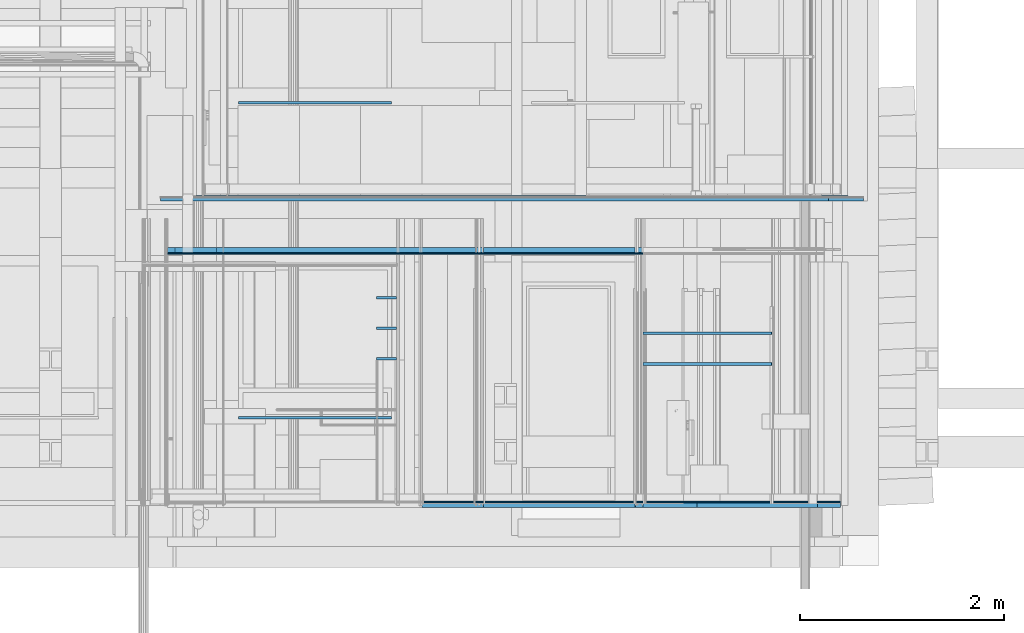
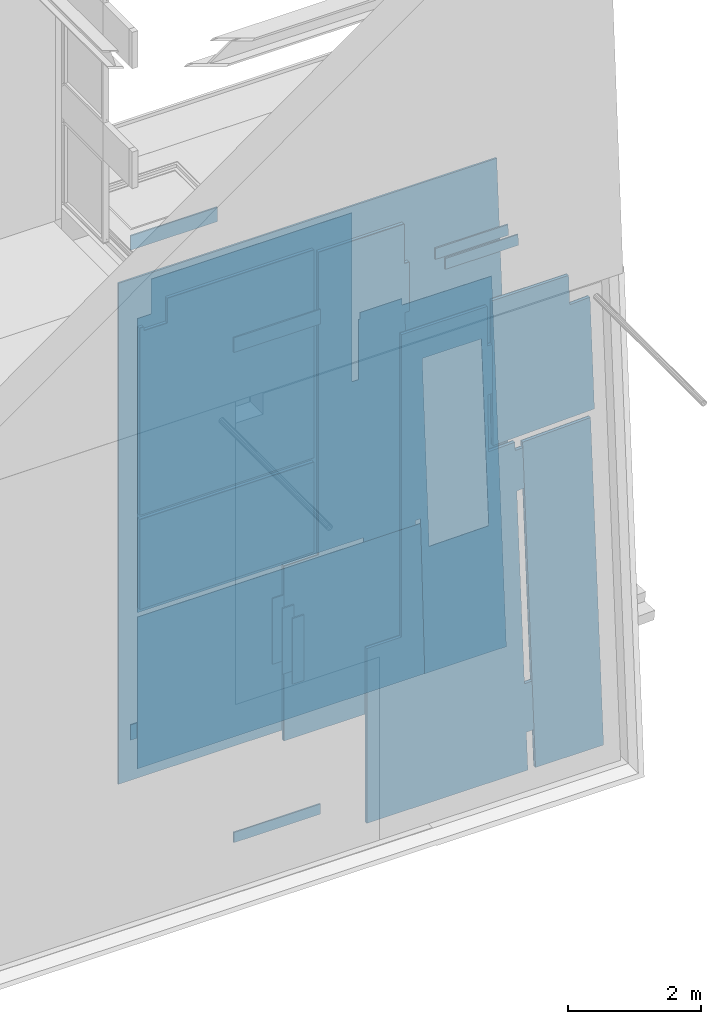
# One storey, part 259 of 583: 24 slabs.
"""IFC2X3 building model written with IfcOpenShell, lengths in metres."""

from ifc_helpers import new_model, entity, si_unit, converted_unit, derived_unit, money_unit, direction, frame, origin_with_axes, place, context, subcontext, project, spatial, faceted_brep, material, type_object, element, save


model = new_model("IFC2X3")

# Units and contexts
model_context = context("Model", 3, precision=1e-05, world=origin_with_axes(), true_north=direction((0.0, 1.0)))
body_context = subcontext(model_context, "Body", "Model", "MODEL_VIEW", scale=1.0)
ifc_project = project(units=[si_unit("LENGTHUNIT", "METRE"), si_unit("AREAUNIT", "SQUARE_METRE"), si_unit("VOLUMEUNIT", "CUBIC_METRE"), si_unit("ABSORBEDDOSEUNIT", "GRAY"), si_unit("AMOUNTOFSUBSTANCEUNIT", "MOLE"), si_unit("DOSEEQUIVALENTUNIT", "SIEVERT"), si_unit("ELECTRICCAPACITANCEUNIT", "FARAD"), si_unit("ELECTRICCHARGEUNIT", "COULOMB"), si_unit("ELECTRICCONDUCTANCEUNIT", "SIEMENS"), si_unit("ELECTRICCURRENTUNIT", "AMPERE"), si_unit("ELECTRICRESISTANCEUNIT", "OHM"), si_unit("ELECTRICVOLTAGEUNIT", "VOLT"), si_unit("ENERGYUNIT", "JOULE"), si_unit("FORCEUNIT", "NEWTON"), si_unit("FREQUENCYUNIT", "HERTZ"), si_unit("ILLUMINANCEUNIT", "LUX"), si_unit("INDUCTANCEUNIT", "HENRY"), si_unit("LUMINOUSFLUXUNIT", "LUMEN"), si_unit("LUMINOUSINTENSITYUNIT", "CANDELA"), si_unit("MAGNETICFLUXDENSITYUNIT", "TESLA"), si_unit("MAGNETICFLUXUNIT", "WEBER"), si_unit("MASSUNIT", "GRAM"), converted_unit("PLANEANGLEUNIT", "degree", entity("IfcReal", 0.0174532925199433), si_unit("PLANEANGLEUNIT", "RADIAN"), dimensions=[0, 0, 0, 0, 0, 0, 0]), si_unit("POWERUNIT", "WATT"), si_unit("PRESSUREUNIT", "PASCAL"), si_unit("RADIOACTIVITYUNIT", "BECQUEREL"), si_unit("SOLIDANGLEUNIT", "STERADIAN"), si_unit("THERMODYNAMICTEMPERATUREUNIT", "KELVIN"), si_unit("TIMEUNIT", "SECOND"), derived_unit("ACCELERATIONUNIT", [(si_unit("LENGTHUNIT", "METRE"), 1), (si_unit("TIMEUNIT", "SECOND"), -2)]), derived_unit("ANGULARVELOCITYUNIT", [(converted_unit("PLANEANGLEUNIT", "degree", entity("IfcReal", 0.0174532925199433), si_unit("PLANEANGLEUNIT", "RADIAN"), dimensions=[0, 0, 0, 0, 0, 0, 0]), 1), (si_unit("TIMEUNIT", "SECOND"), -1)]), derived_unit("CURVATUREUNIT", [(converted_unit("PLANEANGLEUNIT", "degree", entity("IfcReal", 0.0174532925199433), si_unit("PLANEANGLEUNIT", "RADIAN"), dimensions=[0, 0, 0, 0, 0, 0, 0]), 1), (si_unit("LENGTHUNIT", "METRE"), -1)]), derived_unit("DYNAMICVISCOSITYUNIT", [(si_unit("PRESSUREUNIT", "PASCAL"), 1), (si_unit("TIMEUNIT", "SECOND"), 1)]), derived_unit("HEATFLUXDENSITYUNIT", [(si_unit("POWERUNIT", "WATT"), 1), (si_unit("LENGTHUNIT", "METRE"), -2)]), derived_unit("HEATINGVALUEUNIT", [(si_unit("ENERGYUNIT", "JOULE"), 1), (si_unit("MASSUNIT", "GRAM"), -1)]), derived_unit("INTEGERCOUNTRATEUNIT", [(si_unit("TIMEUNIT", "SECOND"), -1)]), derived_unit("IONCONCENTRATIONUNIT", [(si_unit("MASSUNIT", "GRAM"), 1), (si_unit("VOLUMEUNIT", "CUBIC_METRE"), -1)]), derived_unit("ISOTHERMALMOISTURECAPACITYUNIT", [(si_unit("VOLUMEUNIT", "CUBIC_METRE"), 1), (si_unit("MASSUNIT", "GRAM"), -1)]), derived_unit("KINEMATICVISCOSITYUNIT", [(si_unit("AREAUNIT", "SQUARE_METRE"), 1), (si_unit("TIMEUNIT", "SECOND"), -1)]), derived_unit("LINEARFORCEUNIT", [(si_unit("FORCEUNIT", "NEWTON"), 1), (si_unit("LENGTHUNIT", "METRE"), -1)]), derived_unit("LINEARMOMENTUNIT", [(si_unit("FORCEUNIT", "NEWTON"), 1), (si_unit("LENGTHUNIT", "METRE"), -1)]), derived_unit("LINEARSTIFFNESSUNIT", [(si_unit("FORCEUNIT", "NEWTON"), 1), (si_unit("LENGTHUNIT", "METRE"), -1)]), derived_unit("LINEARVELOCITYUNIT", [(si_unit("LENGTHUNIT", "METRE"), 1), (si_unit("TIMEUNIT", "SECOND"), -1)]), derived_unit("LUMINOUSINTENSITYDISTRIBUTIONUNIT", [(si_unit("LUMINOUSINTENSITYUNIT", "CANDELA"), 1), (si_unit("LUMINOUSFLUXUNIT", "LUMEN"), -1)]), derived_unit("MASSDENSITYUNIT", [(si_unit("MASSUNIT", "GRAM"), 1), (si_unit("VOLUMEUNIT", "CUBIC_METRE"), -1)]), derived_unit("MASSFLOWRATEUNIT", [(si_unit("MASSUNIT", "GRAM"), 1), (si_unit("TIMEUNIT", "SECOND"), -1)]), derived_unit("MASSPERLENGTHUNIT", [(si_unit("MASSUNIT", "GRAM"), 1), (si_unit("LENGTHUNIT", "METRE"), -1)]), derived_unit("MODULUSOFELASTICITYUNIT", [(si_unit("FORCEUNIT", "NEWTON"), 1), (si_unit("AREAUNIT", "SQUARE_METRE"), -1)]), derived_unit("MODULUSOFLINEARSUBGRADEREACTIONUNIT", [(si_unit("FORCEUNIT", "NEWTON"), 1), (si_unit("LENGTHUNIT", "METRE"), -2)]), derived_unit("MODULUSOFROTATIONALSUBGRADEREACTIONUNIT", [(si_unit("FORCEUNIT", "NEWTON"), 1), (si_unit("LENGTHUNIT", "METRE"), 1)]), derived_unit("MODULUSOFSUBGRADEREACTIONUNIT", [(si_unit("FORCEUNIT", "NEWTON"), 1), (si_unit("VOLUMEUNIT", "CUBIC_METRE"), -1)]), derived_unit("MOISTUREDIFFUSIVITYUNIT", [(si_unit("VOLUMEUNIT", "CUBIC_METRE"), 1), (si_unit("TIMEUNIT", "SECOND"), -1)]), derived_unit("MOLECULARWEIGHTUNIT", [(si_unit("MASSUNIT", "GRAM"), 1), (si_unit("AMOUNTOFSUBSTANCEUNIT", "MOLE"), -1)]), derived_unit("PLANARFORCEUNIT", [(si_unit("FORCEUNIT", "NEWTON"), 1), (si_unit("LENGTHUNIT", "METRE"), -2)]), derived_unit("ROTATIONALFREQUENCYUNIT", [(si_unit("TIMEUNIT", "SECOND"), -1)]), derived_unit("ROTATIONALMASSUNIT", [(si_unit("MASSUNIT", "GRAM"), 1), (si_unit("LENGTHUNIT", "METRE"), 2)]), derived_unit("ROTATIONALSTIFFNESSUNIT", [(si_unit("FORCEUNIT", "NEWTON"), 1), (si_unit("LENGTHUNIT", "METRE"), 1), (converted_unit("PLANEANGLEUNIT", "degree", entity("IfcReal", 0.0174532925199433), si_unit("PLANEANGLEUNIT", "RADIAN"), dimensions=[0, 0, 0, 0, 0, 0, 0]), -1)]), derived_unit("SECTIONAREAINTEGRALUNIT", [(si_unit("LENGTHUNIT", "METRE"), 5)]), derived_unit("SECTIONMODULUSUNIT", [(si_unit("LENGTHUNIT", "METRE"), 3)]), derived_unit("SHEARMODULUSUNIT", [(si_unit("FORCEUNIT", "NEWTON"), 1), (si_unit("AREAUNIT", "SQUARE_METRE"), -1)]), derived_unit("SOUNDPOWERUNIT", [(si_unit("ENERGYUNIT", "JOULE"), 1), (si_unit("TIMEUNIT", "SECOND"), -1)]), derived_unit("SPECIFICHEATCAPACITYUNIT", [(si_unit("FORCEUNIT", "NEWTON"), 1), (si_unit("MASSUNIT", "GRAM"), -1), (si_unit("THERMODYNAMICTEMPERATUREUNIT", "KELVIN"), -1)]), derived_unit("TEMPERATUREGRADIENTUNIT", [(si_unit("THERMODYNAMICTEMPERATUREUNIT", "KELVIN"), 1), (si_unit("LENGTHUNIT", "METRE"), -1)]), derived_unit("THERMALADMITTANCEUNIT", [(si_unit("POWERUNIT", "WATT"), 1), (si_unit("AREAUNIT", "SQUARE_METRE"), -1), (si_unit("THERMODYNAMICTEMPERATUREUNIT", "KELVIN"), -1)]), derived_unit("THERMALCONDUCTANCEUNIT", [(si_unit("POWERUNIT", "WATT"), 1), (si_unit("LENGTHUNIT", "METRE"), -1), (si_unit("THERMODYNAMICTEMPERATUREUNIT", "KELVIN"), -1)]), derived_unit("THERMALEXPANSIONCOEFFICIENTUNIT", [(si_unit("THERMODYNAMICTEMPERATUREUNIT", "KELVIN"), -1)]), derived_unit("THERMALRESISTANCEUNIT", [(si_unit("AREAUNIT", "SQUARE_METRE"), 1), (si_unit("POWERUNIT", "WATT"), -1)]), derived_unit("THERMALTRANSMITTANCEUNIT", [(si_unit("POWERUNIT", "WATT"), 1), (si_unit("AREAUNIT", "SQUARE_METRE"), -1), (si_unit("THERMODYNAMICTEMPERATUREUNIT", "KELVIN"), -1)]), derived_unit("TORQUEUNIT", [(si_unit("FORCEUNIT", "NEWTON"), 1), (si_unit("LENGTHUNIT", "METRE"), 1)]), derived_unit("VAPORPERMEABILITYUNIT", [(si_unit("MASSUNIT", "GRAM"), 1), (si_unit("TIMEUNIT", "SECOND"), -1)]), derived_unit("VOLUMETRICFLOWRATEUNIT", [(si_unit("VOLUMEUNIT", "CUBIC_METRE"), 1), (si_unit("TIMEUNIT", "SECOND"), -1)]), derived_unit("WARPINGCONSTANTUNIT", [(si_unit("LENGTHUNIT", "METRE"), 6)]), derived_unit("WARPINGMOMENTUNIT", [(si_unit("FORCEUNIT", "NEWTON"), 1), (si_unit("LENGTHUNIT", "METRE"), 2)]), money_unit("GBP")], contexts=[model_context])

# Site, building, storey
site_placement = place(None, origin_with_axes())
site = spatial("IfcSite", under=ifc_project, at=site_placement, Name="Site", CompositionType="ELEMENT")
building_placement = place(site_placement, origin_with_axes())
building = spatial("IfcBuilding", under=site, at=building_placement, Name="Building01", CompositionType="ELEMENT")
storey_placement = place(building_placement, frame((0.0, 0.0, 20.78), z_axis=(0.0, 0.0, 1.0), x_axis=(1.0, 0.0, 0.0)))
storey = spatial("IfcBuildingStorey", under=building, at=storey_placement, Name="RL", CompositionType="ELEMENT", Elevation=20.78)

# Slabs
ifc_material_1 = material(Name="A_BSUK_Ceramic_WallTiles")
slab_type_1 = type_object("IfcSlabType", Name="A-FloorsSlabs A_BSUK_Slabs", PredefinedType="FLOOR")
placement = place(storey_placement, frame((0.0, 0.0, -20.78), z_axis=(0.0, 0.0, 1.0), x_axis=(1.0, 0.0, 0.0)))
element("IfcSlab", 1, at=placement, inside=storey, type_object=slab_type_1, material=ifc_material_1, Name="A-FloorsSlabs A_BSUK_Slabs", ObjectType="CompoundSlabLeaf", context=body_context, shape_type="Brep", body=[
    faceted_brep([(16.693646, 1.873, 2.180525), (16.693646, 1.898, 2.180525), (16.893647, 1.898, 2.180525), (16.893647, 1.873, 2.180525), (16.69365, 1.873, 3.380525), (16.69365, 1.898, 3.380525), (16.893646, 1.873, 3.380525), (16.893646, 1.898, 3.380525)], [[[0, 1, 2, 3]], [[4, 5, 1, 0]], [[6, 7, 5, 4]], [[3, 2, 7, 6]], [[1, 5, 7, 2]], [[3, 6, 4, 0]]]),
])
element("IfcSlab", 2, at=placement, inside=storey, type_object=slab_type_1, material=ifc_material_1, Name="A-FloorsSlabs A_BSUK_Slabs", ObjectType="CompoundSlabLeaf", context=body_context, shape_type="Brep", body=[
    faceted_brep([(16.693646, 2.173, 2.180525), (16.693646, 2.198, 2.180525), (16.893647, 2.198, 2.180525), (16.893647, 2.173, 2.180525), (16.69365, 2.173, 3.380525), (16.69365, 2.198, 3.380525), (16.893646, 2.173, 3.380525), (16.893646, 2.198, 3.380525)], [[[0, 1, 2, 3]], [[4, 5, 1, 0]], [[6, 7, 5, 4]], [[3, 2, 7, 6]], [[1, 5, 7, 2]], [[3, 6, 4, 0]]]),
])
ifc_material_2 = material(Name="A_BSUK_Ceramic_FloorTiles")
element("IfcSlab", 3, at=placement, inside=storey, type_object=slab_type_1, material=ifc_material_2, Name="A-FloorsSlabs A_BSUK_Slabs", ObjectType="CompoundSlabLeaf", context=body_context, shape_type="Brep", body=[
    faceted_brep([(21.082305, 0.178, 6.556698), (21.082305, 0.19, 6.556698), (21.00546, 0.19, 8.628099), (21.00546, 0.178, 8.628099), (19.325402, 0.178, 6.497539), (19.325402, 0.19, 6.497539), (19.307574, 0.178, 9.154265), (19.307574, 0.19, 9.154265), (20.635466, 0.178, 9.154265), (20.635466, 0.19, 9.154265), (20.65458, 0.178, 8.611883), (20.65458, 0.19, 8.611883)], [[[0, 1, 2, 3]], [[4, 5, 1, 0]], [[6, 7, 5, 4]], [[8, 9, 7, 6]], [[10, 11, 9, 8]], [[3, 2, 11, 10]], [[1, 5, 7, 9, 11, 2]], [[3, 10, 8, 6, 4, 0]]]),
])
element("IfcSlab", 4, at=placement, inside=storey, type_object=slab_type_1, material=ifc_material_1, Name="A-FloorsSlabs A_BSUK_Slabs", ObjectType="CompoundSlabLeaf", context=body_context, shape_type="Brep", body=[
    faceted_brep([(20.573007, 1.823, 8.882265), (20.573007, 1.848, 8.882265), (20.565959, 1.848, 9.082265), (20.565959, 1.823, 9.082265), (19.308916, 1.823, 8.882265), (19.308916, 1.848, 8.882265), (19.307574, 1.823, 9.082265), (19.307574, 1.848, 9.082265)], [[[0, 1, 2, 3]], [[4, 5, 1, 0]], [[6, 7, 5, 4]], [[3, 2, 7, 6]], [[1, 5, 7, 2]], [[3, 6, 4, 0]]]),
])
ifc_material_3 = material(Name="A_BSUK_Timber_Miscellaneous")
element("IfcSlab", 5, at=placement, inside=storey, type_object=slab_type_1, material=ifc_material_3, Name="A-FloorsSlabs A_BSUK_Slabs", ObjectType="CompoundSlabLeaf", context=body_context, shape_type="Brep", body=[
    faceted_brep([(16.844813, 0.998, 9.067265), (16.844813, 1.023, 9.067265), (16.844813, 1.023, 9.334256), (16.844813, 0.998, 9.334256), (15.344813, 0.998, 9.067265), (15.344813, 1.023, 9.067265), (15.344813, 0.998, 9.334256), (15.344813, 1.023, 9.334256)], [[[0, 1, 2, 3]], [[4, 5, 1, 0]], [[6, 7, 5, 4]], [[3, 2, 7, 6]], [[1, 5, 7, 2]], [[3, 6, 4, 0]]]),
])
ifc_material_4 = material(Name="A_BSUK_Parquet_Floor")
element("IfcSlab", 6, at=placement, inside=storey, type_object=slab_type_1, material=ifc_material_4, Name="A-FloorsSlabs A_BSUK_Slabs", ObjectType="CompoundSlabLeaf", context=body_context, shape_type="Brep", body=[
    faceted_brep([(21.240404, 0.178, 0.352897), (21.240404, 0.19, 0.352897), (21.015221, 0.19, 6.422857), (21.015221, 0.178, 6.422857), (20.061719, 0.178, 0.352897), (20.061719, 0.19, 0.352897), (19.838621, 0.178, 6.383485), (19.838621, 0.19, 6.383485)], [[[0, 1, 2, 3]], [[4, 5, 1, 0]], [[6, 7, 5, 4]], [[3, 2, 7, 6]], [[1, 5, 7, 2]], [[3, 6, 4, 0]]]),
])
element("IfcSlab", 7, at=placement, inside=storey, type_object=slab_type_1, material=ifc_material_4, Name="A-FloorsSlabs A_BSUK_Slabs", ObjectType="CompoundSlabLeaf", context=body_context, shape_type="Brep", body=[
    faceted_brep([(19.930631, 0.178, 0.35286), (19.930631, 0.19, 0.35286), (19.904707, 0.19, 1.053595), (19.904707, 0.178, 1.053595), (17.143647, 0.178, 0.35286), (17.143647, 0.19, 0.35286), (17.143647, 0.178, 3.550525), (17.143647, 0.19, 3.550525), (17.743571, 0.178, 3.550525), (17.743571, 0.19, 3.550525), (17.743571, 0.178, 9.082265), (17.743571, 0.19, 9.082265), (19.227572, 0.178, 9.082265), (19.227572, 0.19, 9.082265), (19.232925, 0.178, 8.356522), (19.232925, 0.19, 8.356522), (19.312922, 0.178, 8.357258), (19.312922, 0.19, 8.357258), (19.318961, 0.178, 7.457276), (19.318961, 0.19, 7.457276), (19.241312, 0.178, 7.456561), (19.241312, 0.19, 7.456561), (19.245955, 0.178, 6.414819), (19.245955, 0.19, 6.414819), (19.7058, 0.178, 6.430303), (19.7058, 0.19, 6.430303), (19.71153, 0.178, 6.275395), (19.71153, 0.19, 6.275395), (19.842441, 0.178, 6.280238), (19.842441, 0.19, 6.280238), (19.870167, 0.178, 5.530751), (19.870167, 0.19, 5.530751), (19.739257, 0.178, 5.525908), (19.739257, 0.19, 5.525908), (19.871435, 0.178, 1.952979), (19.871435, 0.19, 1.952979), (20.002346, 0.178, 1.957822), (20.002346, 0.19, 1.957822), (20.035618, 0.178, 1.058438), (20.035618, 0.19, 1.058438)], [[[0, 1, 2, 3]], [[4, 5, 1, 0]], [[6, 7, 5, 4]], [[8, 9, 7, 6]], [[10, 11, 9, 8]], [[12, 13, 11, 10]], [[14, 15, 13, 12]], [[16, 17, 15, 14]], [[18, 19, 17, 16]], [[20, 21, 19, 18]], [[22, 23, 21, 20]], [[24, 25, 23, 22]], [[26, 27, 25, 24]], [[28, 29, 27, 26]], [[30, 31, 29, 28]], [[32, 33, 31, 30]], [[34, 35, 33, 32]], [[36, 37, 35, 34]], [[38, 39, 37, 36]], [[3, 2, 39, 38]], [[1, 5, 7, 9, 11, 13, 15, 17, 19, 21, 23, 25, 27, 29, 31, 33, 35, 37, 39, 2]], [[3, 38, 36, 34, 32, 30, 28, 26, 24, 22, 20, 18, 16, 14, 12, 10, 8, 6, 4, 0]]]),
])
ifc_material_5 = material(Name="A_BSUK_CeilingSoffitFinishes_Suspended")
element("IfcSlab", 8, at=placement, inside=storey, type_object=slab_type_1, material=ifc_material_5, Name="A-FloorsSlabs A_BSUK_Slabs", ObjectType="CompoundSlabLeaf", context=body_context, shape_type="Brep", body=[
    faceted_brep([(14.65, 2.6125, 5.354256), (14.65, 2.625, 5.354256), (17.663571, 2.625, 5.354256), (17.663571, 2.6125, 5.354256), (14.65, 2.6125, 8.775265), (14.65, 2.625, 8.775265), (14.721892, 2.6125, 8.775265), (14.721892, 2.625, 8.775265), (14.721892, 2.6125, 8.705291), (14.721892, 2.625, 8.705291), (15.127892, 2.6125, 8.705291), (15.127892, 2.625, 8.705291), (15.127892, 2.6125, 9.154265), (15.127892, 2.625, 9.154265), (17.663571, 2.6125, 9.154265), (17.663571, 2.625, 9.154265)], [[[0, 1, 2, 3]], [[4, 5, 1, 0]], [[6, 7, 5, 4]], [[8, 9, 7, 6]], [[10, 11, 9, 8]], [[12, 13, 11, 10]], [[14, 15, 13, 12]], [[3, 2, 15, 14]], [[1, 5, 7, 9, 11, 13, 15, 2]], [[3, 14, 12, 10, 8, 6, 4, 0]]]),
])
element("IfcSlab", 9, at=placement, inside=storey, type_object=slab_type_1, material=ifc_material_5, Name="A-FloorsSlabs A_BSUK_Slabs", ObjectType="CompoundSlabLeaf", context=body_context, shape_type="Brep", body=[
    faceted_brep([(17.663571, 2.6125, 3.630525), (17.663571, 2.625, 3.630525), (17.663571, 2.625, 5.274256), (17.663571, 2.6125, 5.274256), (14.65, 2.6125, 3.630525), (14.65, 2.625, 3.630525), (14.65, 2.6125, 5.274256), (14.65, 2.625, 5.274256)], [[[0, 1, 2, 3]], [[4, 5, 1, 0]], [[6, 7, 5, 4]], [[3, 2, 7, 6]], [[1, 5, 7, 2]], [[3, 6, 4, 0]]]),
])
element("IfcSlab", 10, at=placement, inside=storey, type_object=slab_type_1, material=ifc_material_5, Name="A-FloorsSlabs A_BSUK_Slabs", ObjectType="CompoundSlabLeaf", context=body_context, shape_type="Brep", body=[
    faceted_brep([(19.930631, 2.6125, 0.35286), (19.930631, 2.625, 0.35286), (19.904707, 2.625, 1.053595), (19.904707, 2.6125, 1.053595), (17.143647, 2.6125, 0.35286), (17.143647, 2.625, 0.35286), (17.143647, 2.6125, 3.550525), (17.143647, 2.625, 3.550525), (17.743571, 2.6125, 3.550525), (17.743571, 2.625, 3.550525), (17.743571, 2.6125, 9.082265), (17.743571, 2.625, 9.082265), (19.227572, 2.6125, 9.082265), (19.227572, 2.625, 9.082265), (19.232925, 2.6125, 8.356522), (19.232925, 2.625, 8.356522), (19.312922, 2.6125, 8.357258), (19.312922, 2.625, 8.357258), (19.318961, 2.6125, 7.457276), (19.318961, 2.625, 7.457276), (19.241312, 2.6125, 7.456561), (19.241312, 2.625, 7.456561), (19.245955, 2.6125, 6.414819), (19.245955, 2.625, 6.414819), (19.7058, 2.6125, 6.430303), (19.7058, 2.625, 6.430303), (19.71153, 2.6125, 6.275395), (19.71153, 2.625, 6.275395), (19.842441, 2.6125, 6.280238), (19.842441, 2.625, 6.280238), (19.870167, 2.6125, 5.530751), (19.870167, 2.625, 5.530751), (19.739257, 2.6125, 5.525908), (19.739257, 2.625, 5.525908), (19.871435, 2.6125, 1.952979), (19.871435, 2.625, 1.952979), (20.002346, 2.6125, 1.957822), (20.002346, 2.625, 1.957822), (20.035618, 2.6125, 1.058438), (20.035618, 2.625, 1.058438)], [[[0, 1, 2, 3]], [[4, 5, 1, 0]], [[6, 7, 5, 4]], [[8, 9, 7, 6]], [[10, 11, 9, 8]], [[12, 13, 11, 10]], [[14, 15, 13, 12]], [[16, 17, 15, 14]], [[18, 19, 17, 16]], [[20, 21, 19, 18]], [[22, 23, 21, 20]], [[24, 25, 23, 22]], [[26, 27, 25, 24]], [[28, 29, 27, 26]], [[30, 31, 29, 28]], [[32, 33, 31, 30]], [[34, 35, 33, 32]], [[36, 37, 35, 34]], [[38, 39, 37, 36]], [[3, 2, 39, 38]], [[1, 5, 7, 9, 11, 13, 15, 17, 19, 21, 23, 25, 27, 29, 31, 33, 35, 37, 39, 2]], [[3, 38, 36, 34, 32, 30, 28, 26, 24, 22, 20, 18, 16, 14, 12, 10, 8, 6, 4, 0]]]),
])
element("IfcSlab", 11, at=placement, inside=storey, type_object=slab_type_1, material=ifc_material_3, Name="A-FloorsSlabs A_BSUK_Slabs", ObjectType="CompoundSlabLeaf", context=body_context, shape_type="Brep", body=[
    faceted_brep([(16.844813, 0.998, 0.100088), (16.844813, 1.023, 0.100088), (16.844813, 1.023, 0.287079), (16.844813, 0.998, 0.287079), (15.344813, 0.998, 0.100088), (15.344813, 1.023, 0.100088), (15.344813, 0.998, 0.287079), (15.344813, 1.023, 0.287079)], [[[0, 1, 2, 3]], [[4, 5, 1, 0]], [[6, 7, 5, 4]], [[3, 2, 7, 6]], [[1, 5, 7, 2]], [[3, 6, 4, 0]]]),
])
ifc_material_6 = material(Name="A_BSUK_InternalFinishes_FloorScreed")
element("IfcSlab", 12, at=placement, inside=storey, type_object=slab_type_1, material=ifc_material_6, Name="A-FloorsSlabs A_BSUK_Slabs", ObjectType="CompoundSlabLeaf", context=body_context, shape_type="Brep", body=[
    faceted_brep([(14.580001, 3.167, 9.303038), (21.127455, 3.167, 9.303038), (21.46733, 3.167, 0.140679), (21.436217, 3.167, 0.140679), (14.580006, 3.167, 0.140679), (14.580006, 3.167, 0.668282), (14.580016, 3.167, 0.668282), (19.979174, 3.167, 2.584185), (21.008386, 3.167, 2.600185), (20.880804, 3.167, 6.062509), (19.859391, 3.167, 6.06243), (14.580016, 3.135, 0.668282), (14.580006, 3.135, 0.668282), (14.580006, 3.135, 0.140679), (21.436217, 3.135, 0.140679), (21.46733, 3.135, 0.140679), (21.127455, 3.135, 9.303038), (14.580001, 3.135, 9.303038), (19.979174, 3.135, 2.584185), (19.859391, 3.135, 6.06243), (20.880804, 3.135, 6.062509), (21.008386, 3.135, 2.600185)], [[[0, 1, 2, 3, 4, 5, 6], [7, 8, 9, 10]], [[11, 12, 13, 14, 15, 16, 17], [18, 19, 20, 21]], [[17, 0, 6, 11]], [[16, 1, 0, 17]], [[15, 2, 1, 16]], [[14, 3, 2, 15]], [[13, 4, 3, 14]], [[12, 5, 4, 13]], [[11, 6, 5, 12]], [[18, 21, 8, 7]], [[19, 18, 7, 10]], [[20, 19, 10, 9]], [[21, 20, 9, 8]]]),
])
element("IfcSlab", 13, at=placement, inside=storey, type_object=slab_type_1, material=ifc_material_4, Name="A-FloorsSlabs A_BSUK_Slabs", ObjectType="CompoundSlabLeaf", context=body_context, shape_type="Brep", body=[
    faceted_brep([(14.93, 3.182, 8.516893), (15.168, 3.182, 8.516893), (15.168, 3.182, 9.154265), (18.639607, 3.182, 9.154265), (18.639607, 3.182, 6.06243), (18.752607, 3.182, 6.06243), (18.752607, 3.182, 7.159608), (18.78011, 3.182, 7.159608), (18.78011, 3.182, 7.279608), (19.51011, 3.182, 7.279608), (19.51011, 3.182, 7.160903), (21.06028, 3.182, 7.150398), (21.315124, 3.182, 0.280897), (19.90157, 3.182, 0.280897), (19.828341, 3.182, 3.137414), (19.740347, 3.182, 3.137414), (19.740347, 3.182, 3.057414), (18.840347, 3.182, 3.057414), (18.840347, 3.182, 3.137414), (14.93, 3.182, 3.137414), (14.93, 3.182, 4.398835), (14.93001, 3.182, 4.398835), (19.979174, 3.182, 2.584185), (21.008386, 3.182, 2.600185), (20.880804, 3.182, 6.062509), (19.859391, 3.182, 6.06243), (14.93001, 3.17, 4.398835), (14.93, 3.17, 4.398835), (14.93, 3.17, 3.137414), (18.840347, 3.17, 3.137414), (18.840347, 3.17, 3.057414), (19.740347, 3.17, 3.057414), (19.740347, 3.17, 3.137414), (19.828341, 3.17, 3.137414), (19.90157, 3.17, 0.280897), (21.315124, 3.17, 0.280897), (21.06028, 3.17, 7.150398), (19.51011, 3.17, 7.160903), (19.51011, 3.17, 7.279608), (18.78011, 3.17, 7.279608), (18.78011, 3.17, 7.159608), (18.752607, 3.17, 7.159608), (18.752607, 3.17, 6.06243), (18.639607, 3.17, 6.06243), (18.639607, 3.17, 9.154265), (15.168, 3.17, 9.154265), (15.168, 3.17, 8.516893), (14.93, 3.17, 8.516893), (19.979174, 3.17, 2.584185), (19.859391, 3.17, 6.06243), (20.880804, 3.17, 6.062509), (21.008386, 3.17, 2.600185)], [[[0, 1, 2, 3, 4, 5, 6, 7, 8, 9, 10, 11, 12, 13, 14, 15, 16, 17, 18, 19, 20, 21], [22, 23, 24, 25]], [[26, 27, 28, 29, 30, 31, 32, 33, 34, 35, 36, 37, 38, 39, 40, 41, 42, 43, 44, 45, 46, 47], [48, 49, 50, 51]], [[47, 0, 21, 26]], [[46, 1, 0, 47]], [[45, 2, 1, 46]], [[44, 3, 2, 45]], [[43, 4, 3, 44]], [[42, 5, 4, 43]], [[41, 6, 5, 42]], [[40, 7, 6, 41]], [[39, 8, 7, 40]], [[38, 9, 8, 39]], [[37, 10, 9, 38]], [[36, 11, 10, 37]], [[35, 12, 11, 36]], [[34, 13, 12, 35]], [[33, 14, 13, 34]], [[32, 15, 14, 33]], [[31, 16, 15, 32]], [[30, 17, 16, 31]], [[29, 18, 17, 30]], [[28, 19, 18, 29]], [[27, 20, 19, 28]], [[26, 21, 20, 27]], [[48, 51, 23, 22]], [[49, 48, 22, 25]], [[50, 49, 25, 24]], [[51, 50, 24, 23]]]),
])
ifc_material_7 = material(Name="A_BSUK_Carpet-Pile")
element("IfcSlab", 14, at=placement, inside=storey, type_object=slab_type_1, material=ifc_material_7, Name="A-FloorsSlabs A_BSUK_Slabs", ObjectType="CompoundSlabLeaf", context=body_context, shape_type="Brep", body=[
    faceted_brep([(19.90157, 3.17, 0.280897), (19.90157, 3.182, 0.280897), (19.830392, 3.182, 3.057414), (19.830392, 3.17, 3.057414), (14.93, 3.17, 0.280777), (14.93, 3.182, 0.280777), (14.93, 3.17, 3.057414), (14.93, 3.182, 3.057414)], [[[0, 1, 2, 3]], [[4, 5, 1, 0]], [[6, 7, 5, 4]], [[3, 2, 7, 6]], [[1, 5, 7, 2]], [[3, 6, 4, 0]]]),
])
element("IfcSlab", 15, at=placement, inside=storey, type_object=slab_type_1, material=ifc_material_3, Name="A-FloorsSlabs A_BSUK_Slabs", ObjectType="CompoundSlabLeaf", context=body_context, shape_type="Brep", body=[
    faceted_brep([(16.84279, 4.085, 9.067259), (16.84279, 4.11, 9.067259), (16.84279, 4.11, 9.329665), (16.84279, 4.085, 9.329665), (15.34279, 4.085, 9.067259), (15.34279, 4.11, 9.067259), (15.34279, 4.085, 9.329665), (15.34279, 4.11, 9.329665)], [[[0, 1, 2, 3]], [[4, 5, 1, 0]], [[6, 7, 5, 4]], [[3, 2, 7, 6]], [[1, 5, 7, 2]], [[3, 6, 4, 0]]]),
])
element("IfcSlab", 16, at=placement, inside=storey, type_object=slab_type_1, material=ifc_material_3, Name="A-FloorsSlabs A_BSUK_Slabs", ObjectType="CompoundSlabLeaf", context=body_context, shape_type="Brep", body=[
    faceted_brep([(16.84279, 4.085, 0.103554), (16.84279, 4.11, 0.103554), (16.84279, 4.11, 0.383679), (16.84279, 4.085, 0.383679), (15.34279, 4.085, 0.103554), (15.34279, 4.11, 0.103554), (15.34279, 4.085, 0.383679), (15.34279, 4.11, 0.383679)], [[[0, 1, 2, 3]], [[4, 5, 1, 0]], [[6, 7, 5, 4]], [[3, 2, 7, 6]], [[1, 5, 7, 2]], [[3, 6, 4, 0]]]),
])
slab_type_2 = type_object("IfcSlabType", Name="A-Finishes A_BSUK_Ceramic_FloorTiles", PredefinedType="FLOOR")
element("IfcSlab", 17, at=placement, inside=storey, type_object=slab_type_2, material=ifc_material_2, Name="A-Finishes A_BSUK_Ceramic_FloorTiles", ObjectType="CompoundSlabLeaf", context=body_context, shape_type="Brep", body=[
    faceted_brep([(16.693646, 1.573, 2.180525), (16.693646, 1.598, 2.180525), (16.893647, 1.598, 2.180525), (16.893647, 1.573, 2.180525), (16.69365, 1.573, 3.380525), (16.69365, 1.598, 3.380525), (16.893646, 1.573, 3.380525), (16.893646, 1.598, 3.380525)], [[[0, 1, 2, 3]], [[4, 5, 1, 0]], [[6, 7, 5, 4]], [[3, 2, 7, 6]], [[1, 5, 7, 2]], [[3, 6, 4, 0]]]),
])
element("IfcSlab", 18, at=placement, inside=storey, type_object=slab_type_2, material=ifc_material_2, Name="A-Finishes A_BSUK_Ceramic_FloorTiles", ObjectType="CompoundSlabLeaf", context=body_context, shape_type="Brep", body=[
    faceted_brep([(20.573007, 1.523, 8.882265), (20.573007, 1.548, 8.882265), (20.565959, 1.548, 9.082265), (20.565959, 1.523, 9.082265), (19.308916, 1.523, 8.882265), (19.308916, 1.548, 8.882265), (19.307574, 1.523, 9.082265), (19.307574, 1.548, 9.082265)], [[[0, 1, 2, 3]], [[4, 5, 1, 0]], [[6, 7, 5, 4]], [[3, 2, 7, 6]], [[1, 5, 7, 2]], [[3, 6, 4, 0]]]),
])
ifc_material_8 = material(Name="A_BSUK_ExpandedPolystyreneBoards")
slab_type_3 = type_object("IfcSlabType", Name="A-FloorsSlabs A_BSUK_ExpandedPolystyreneBoards", PredefinedType="FLOOR")
element("IfcSlab", 19, at=placement, inside=storey, type_object=slab_type_3, material=ifc_material_8, Name="A-FloorsSlabs A_BSUK_ExpandedPolystyreneBoards", ObjectType="CompoundSlabLeaf", context=body_context, shape_type="Brep", body=[
    faceted_brep([(21.082305, 0.128, 6.556698), (21.082305, 0.178, 6.556698), (21.00546, 0.178, 8.628099), (21.00546, 0.128, 8.628099), (19.325402, 0.128, 6.497539), (19.325402, 0.178, 6.497539), (19.307574, 0.128, 9.154265), (19.307574, 0.178, 9.154265), (20.635466, 0.128, 9.154265), (20.635466, 0.178, 9.154265), (20.65458, 0.128, 8.611883), (20.65458, 0.178, 8.611883)], [[[0, 1, 2, 3]], [[4, 5, 1, 0]], [[6, 7, 5, 4]], [[8, 9, 7, 6]], [[10, 11, 9, 8]], [[3, 2, 11, 10]], [[1, 5, 7, 9, 11, 2]], [[3, 10, 8, 6, 4, 0]]]),
])
element("IfcSlab", 20, at=placement, inside=storey, type_object=slab_type_3, material=ifc_material_8, Name="A-FloorsSlabs A_BSUK_ExpandedPolystyreneBoards", ObjectType="CompoundSlabLeaf", context=body_context, shape_type="Brep", body=[
    faceted_brep([(21.240404, 0.128, 0.352897), (21.240404, 0.178, 0.352897), (21.015221, 0.178, 6.422857), (21.015221, 0.128, 6.422857), (20.061719, 0.128, 0.352897), (20.061719, 0.178, 0.352897), (19.838621, 0.128, 6.383485), (19.838621, 0.178, 6.383485)], [[[0, 1, 2, 3]], [[4, 5, 1, 0]], [[6, 7, 5, 4]], [[3, 2, 7, 6]], [[1, 5, 7, 2]], [[3, 6, 4, 0]]]),
])
element("IfcSlab", 21, at=placement, inside=storey, type_object=slab_type_3, material=ifc_material_8, Name="A-FloorsSlabs A_BSUK_ExpandedPolystyreneBoards", ObjectType="CompoundSlabLeaf", context=body_context, shape_type="Brep", body=[
    faceted_brep([(19.930631, 0.128, 0.35286), (19.930631, 0.178, 0.35286), (19.904707, 0.178, 1.053595), (19.904707, 0.128, 1.053595), (17.143647, 0.128, 0.35286), (17.143647, 0.178, 0.35286), (17.143647, 0.128, 3.550525), (17.143647, 0.178, 3.550525), (17.743571, 0.128, 3.550525), (17.743571, 0.178, 3.550525), (17.743571, 0.128, 9.082265), (17.743571, 0.178, 9.082265), (19.227572, 0.128, 9.082265), (19.227572, 0.178, 9.082265), (19.232925, 0.128, 8.356522), (19.232925, 0.178, 8.356522), (19.312922, 0.128, 8.357258), (19.312922, 0.178, 8.357258), (19.318961, 0.128, 7.457276), (19.318961, 0.178, 7.457276), (19.241312, 0.128, 7.456561), (19.241312, 0.178, 7.456561), (19.245955, 0.128, 6.414819), (19.245955, 0.178, 6.414819), (19.7058, 0.128, 6.430303), (19.7058, 0.178, 6.430303), (19.71153, 0.128, 6.275395), (19.71153, 0.178, 6.275395), (19.842441, 0.128, 6.280238), (19.842441, 0.178, 6.280238), (19.870167, 0.128, 5.530751), (19.870167, 0.178, 5.530751), (19.739257, 0.128, 5.525908), (19.739257, 0.178, 5.525908), (19.871435, 0.128, 1.952979), (19.871435, 0.178, 1.952979), (20.002346, 0.128, 1.957822), (20.002346, 0.178, 1.957822), (20.035618, 0.128, 1.058438), (20.035618, 0.178, 1.058438)], [[[0, 1, 2, 3]], [[4, 5, 1, 0]], [[6, 7, 5, 4]], [[8, 9, 7, 6]], [[10, 11, 9, 8]], [[12, 13, 11, 10]], [[14, 15, 13, 12]], [[16, 17, 15, 14]], [[18, 19, 17, 16]], [[20, 21, 19, 18]], [[22, 23, 21, 20]], [[24, 25, 23, 22]], [[26, 27, 25, 24]], [[28, 29, 27, 26]], [[30, 31, 29, 28]], [[32, 33, 31, 30]], [[34, 35, 33, 32]], [[36, 37, 35, 34]], [[38, 39, 37, 36]], [[3, 2, 39, 38]], [[1, 5, 7, 9, 11, 13, 15, 17, 19, 21, 23, 25, 27, 29, 31, 33, 35, 37, 39, 2]], [[3, 38, 36, 34, 32, 30, 28, 26, 24, 22, 20, 18, 16, 14, 12, 10, 8, 6, 4, 0]]]),
])
element("IfcSlab", 22, at=placement, inside=storey, type_object=slab_type_3, material=ifc_material_8, Name="A-FloorsSlabs A_BSUK_ExpandedPolystyreneBoards", ObjectType="CompoundSlabLeaf", context=body_context, shape_type="Brep", body=[
    faceted_brep([(14.65, 2.625, 5.354256), (14.65, 2.675, 5.354256), (17.663571, 2.675, 5.354256), (17.663571, 2.625, 5.354256), (14.65, 2.625, 8.775265), (14.65, 2.675, 8.775265), (14.721892, 2.625, 8.775265), (14.721892, 2.675, 8.775265), (14.721892, 2.625, 8.705291), (14.721892, 2.675, 8.705291), (15.127892, 2.625, 8.705291), (15.127892, 2.675, 8.705291), (15.127892, 2.625, 9.154265), (15.127892, 2.675, 9.154265), (17.663571, 2.625, 9.154265), (17.663571, 2.675, 9.154265)], [[[0, 1, 2, 3]], [[4, 5, 1, 0]], [[6, 7, 5, 4]], [[8, 9, 7, 6]], [[10, 11, 9, 8]], [[12, 13, 11, 10]], [[14, 15, 13, 12]], [[3, 2, 15, 14]], [[1, 5, 7, 9, 11, 13, 15, 2]], [[3, 14, 12, 10, 8, 6, 4, 0]]]),
])
element("IfcSlab", 23, at=placement, inside=storey, type_object=slab_type_3, material=ifc_material_8, Name="A-FloorsSlabs A_BSUK_ExpandedPolystyreneBoards", ObjectType="CompoundSlabLeaf", context=body_context, shape_type="Brep", body=[
    faceted_brep([(17.663571, 2.625, 3.630525), (17.663571, 2.675, 3.630525), (17.663571, 2.675, 5.274256), (17.663571, 2.625, 5.274256), (14.65, 2.625, 3.630525), (14.65, 2.675, 3.630525), (14.65, 2.625, 5.274256), (14.65, 2.675, 5.274256)], [[[0, 1, 2, 3]], [[4, 5, 1, 0]], [[6, 7, 5, 4]], [[3, 2, 7, 6]], [[1, 5, 7, 2]], [[3, 6, 4, 0]]]),
])
element("IfcSlab", 24, at=placement, inside=storey, type_object=slab_type_3, material=ifc_material_8, Name="A-FloorsSlabs A_BSUK_ExpandedPolystyreneBoards", ObjectType="CompoundSlabLeaf", context=body_context, shape_type="Brep", body=[
    faceted_brep([(19.930631, 2.625, 0.35286), (19.930631, 2.675, 0.35286), (19.904707, 2.675, 1.053595), (19.904707, 2.625, 1.053595), (17.143647, 2.625, 0.35286), (17.143647, 2.675, 0.35286), (17.143647, 2.625, 3.550525), (17.143647, 2.675, 3.550525), (17.743571, 2.625, 3.550525), (17.743571, 2.675, 3.550525), (17.743571, 2.625, 9.082265), (17.743571, 2.675, 9.082265), (19.227572, 2.625, 9.082265), (19.227572, 2.675, 9.082265), (19.232925, 2.625, 8.356522), (19.232925, 2.675, 8.356522), (19.312922, 2.625, 8.357258), (19.312922, 2.675, 8.357258), (19.318961, 2.625, 7.457276), (19.318961, 2.675, 7.457276), (19.241312, 2.625, 7.456561), (19.241312, 2.675, 7.456561), (19.245955, 2.625, 6.414819), (19.245955, 2.675, 6.414819), (19.7058, 2.625, 6.430303), (19.7058, 2.675, 6.430303), (19.71153, 2.625, 6.275395), (19.71153, 2.675, 6.275395), (19.842441, 2.625, 6.280238), (19.842441, 2.675, 6.280238), (19.870167, 2.625, 5.530751), (19.870167, 2.675, 5.530751), (19.739257, 2.625, 5.525908), (19.739257, 2.675, 5.525908), (19.871435, 2.625, 1.952979), (19.871435, 2.675, 1.952979), (20.002346, 2.625, 1.957822), (20.002346, 2.675, 1.957822), (20.035618, 2.625, 1.058438), (20.035618, 2.675, 1.058438)], [[[0, 1, 2, 3]], [[4, 5, 1, 0]], [[6, 7, 5, 4]], [[8, 9, 7, 6]], [[10, 11, 9, 8]], [[12, 13, 11, 10]], [[14, 15, 13, 12]], [[16, 17, 15, 14]], [[18, 19, 17, 16]], [[20, 21, 19, 18]], [[22, 23, 21, 20]], [[24, 25, 23, 22]], [[26, 27, 25, 24]], [[28, 29, 27, 26]], [[30, 31, 29, 28]], [[32, 33, 31, 30]], [[34, 35, 33, 32]], [[36, 37, 35, 34]], [[38, 39, 37, 36]], [[3, 2, 39, 38]], [[1, 5, 7, 9, 11, 13, 15, 17, 19, 21, 23, 25, 27, 29, 31, 33, 35, 37, 39, 2]], [[3, 38, 36, 34, 32, 30, 28, 26, 24, 22, 20, 18, 16, 14, 12, 10, 8, 6, 4, 0]]]),
])

save(model, "model.ifc")
